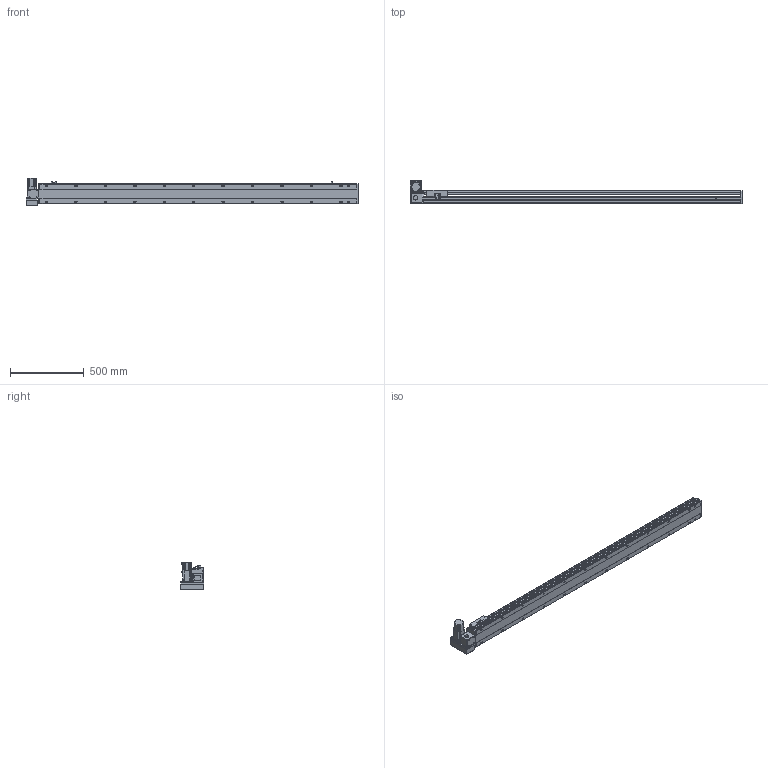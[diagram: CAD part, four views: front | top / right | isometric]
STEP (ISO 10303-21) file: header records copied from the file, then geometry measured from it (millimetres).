
FILE_DESCRIPTION(/* description */ ('STEP AP214'),/* implementation_level */ '2;1');
FILE_NAME(/* name */ 'PBS140S-P40-S1900-LU-T40-C1-N(0)',/* time_stamp */ '2022-06-09T02:35:36+02:00',/* author */ ('License CC BY-ND 4.0'),/* organization */ ('CADENAS'),/* preprocessor_version */ 'ST-DEVELOPER v18.102',/* originating_system */ 'PARTsolutions',/* authorisation */ ' ');
FILE_SCHEMA (('AUTOMOTIVE_DESIGN {1 0 10303 214 3 1 1}'));
Length unit declared in the file: millimetre
Products named in the file (7): PBS140S-P40-S1900-LU-T40-C1-N(0); PBS140S_sensor; PBS140S_plant; PBS140S_sliser; T40-p1; PBS140ST-LU_motors; PBS140S-S1900()_body
Assembly tree (8 placements, depth 2):
  PBS140S-P40-S1900-LU-T40-C1-N(0)
    PBS140S_sensor  x3
    PBS140S_plant
    PBS140S_sliser
    T40-p1
    PBS140ST-LU_motors
    PBS140S-S1900()_body
Bounding box: 2254 x 162.5 x 189.7 mm (x, y, z)
Volume: 11136180.7 mm3; surface area: 1890408.8 mm2
Topology: 8 solids, 8 shells, 1163 faces, 3071 edges, 2009 vertices
Faces by surface type: plane 726, cylinder 377, cone 50, sphere 8, torus 2
Full cylindrical faces by diameter (mm): 3.242 x4, 4 x2, 4.134 x4, 4.4 x8, 4.5 x2, 4.8 x4, 4.917 x32, 5.5 x7, 6 x2, 7 x26, 7.5 x8, 8 x12, 8.5 x4, 10.5 x24, 14 x1, 30 x2, 50 x2
Entity records: 33328 total; most frequent: CARTESIAN_POINT 6264, DIRECTION 5628, ORIENTED_EDGE 5302, EDGE_CURVE 2651, AXIS2_PLACEMENT_3D 1979, VERTEX_POINT 1849, LINE 1670, VECTOR 1670
